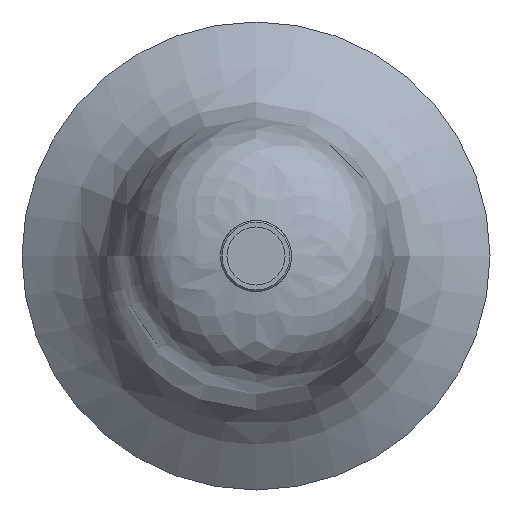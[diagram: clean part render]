
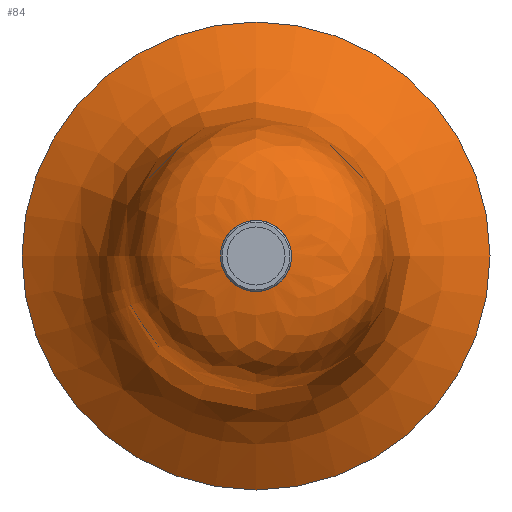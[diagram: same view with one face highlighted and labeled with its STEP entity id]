
A CAD part, front view. The second image highlights one B-rep face of the part: STEP entity #84.
In plain terms, the highlighted free-form (B-spline) face has degree [3, 2] with [6, 9] control points.
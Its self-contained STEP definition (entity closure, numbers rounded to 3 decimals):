
#15=(
BOUNDED_SURFACE()
B_SPLINE_SURFACE(3,2,((#176,#177,#178,#179,#180,#181,#182,#183,#184),(#185,
#186,#187,#188,#189,#190,#191,#192,#193),(#194,#195,#196,#197,#198,#199,
#200,#201,#202),(#203,#204,#205,#206,#207,#208,#209,#210,#211),(#212,#213,
#214,#215,#216,#217,#218,#219,#220),(#221,#222,#223,#224,#225,#226,#227,
#228,#229)),.UNSPECIFIED.,.F.,.T.,.F.)
B_SPLINE_SURFACE_WITH_KNOTS((4,1,1,4),(3,2,2,2,3),(0.,3.282,9.91,
13.27),(0.,1.571,3.142,4.712,
6.283),.UNSPECIFIED.)
GEOMETRIC_REPRESENTATION_ITEM()
RATIONAL_B_SPLINE_SURFACE(((1.,0.707,1.,0.707,1.,
0.707,1.,0.707,1.),(1.,0.707,1.,0.707,
1.,0.707,1.,0.707,1.),(1.,0.707,1.,
0.707,1.,0.707,1.,0.707,1.),(1.,0.707,
1.,0.707,1.,0.707,1.,0.707,1.),(1.,
0.707,1.,0.707,1.,0.707,1.,0.707,
1.),(1.,0.707,1.,0.707,1.,0.707,1.,
0.707,1.)))
REPRESENTATION_ITEM('')
SURFACE()
);
#17=B_SPLINE_CURVE_WITH_KNOTS('',3,(#133,#134,#135,#136,#137,#138,#139,
#140,#141,#142,#143,#144,#145,#146,#147,#148,#149,#150,#151,#152,#153,#154,
#155,#156,#157,#158,#159,#160,#161,#162,#163,#164,#165,#166,#167,#168),
 .UNSPECIFIED.,.T.,.F.,(4,2,2,2,2,2,2,2,2,2,2,2,2,2,2,2,2,4),(-6.932,
-6.689,-6.446,-6.016,-5.586,
-5.157,-4.727,-4.297,-3.867,
-3.438,-3.008,-2.578,-2.149,
-1.719,-1.289,-0.859,-0.43,
0.),.UNSPECIFIED.);
#18=B_SPLINE_CURVE_WITH_KNOTS('',3,(#230,#231,#232,#233,#234,#235),
 .UNSPECIFIED.,.F.,.F.,(4,1,1,4),(0.,3.282,9.91,12.288),
 .UNSPECIFIED.);
#32=FACE_OUTER_BOUND('',#43,.T.);
#43=EDGE_LOOP('',(#72,#73,#74,#75));
#48=CIRCLE('',#97,72.5);
#52=VERTEX_POINT('',#132);
#54=VERTEX_POINT('',#174);
#58=EDGE_CURVE('',#52,#52,#17,.T.);
#60=EDGE_CURVE('',#54,#54,#48,.T.);
#61=EDGE_CURVE('',#54,#52,#18,.T.);
#72=ORIENTED_EDGE('',*,*,#58,.T.);
#73=ORIENTED_EDGE('',*,*,#61,.F.);
#74=ORIENTED_EDGE('',*,*,#60,.F.);
#75=ORIENTED_EDGE('',*,*,#61,.T.);
#84=ADVANCED_FACE('',(#32),#15,.T.);
#97=AXIS2_PLACEMENT_3D('',#175,#120,#121);
#120=DIRECTION('center_axis',(0.,1.,0.));
#121=DIRECTION('ref_axis',(1.,0.,0.));
#132=CARTESIAN_POINT('',(-11.,1.252,0.));
#133=CARTESIAN_POINT('Ctrl Pts',(0.,1.252,
-11.));
#134=CARTESIAN_POINT('Ctrl Pts',(-0.811,1.252,-11.));
#135=CARTESIAN_POINT('Ctrl Pts',(-1.62,1.252,-10.91));
#136=CARTESIAN_POINT('Ctrl Pts',(-3.202,1.252,-10.555));
#137=CARTESIAN_POINT('Ctrl Pts',(-3.971,1.252,-10.29));
#138=CARTESIAN_POINT('Ctrl Pts',(-5.999,1.252,-9.331));
#139=CARTESIAN_POINT('Ctrl Pts',(-7.162,1.252,-8.471));
#140=CARTESIAN_POINT('Ctrl Pts',(-9.092,1.252,-6.355));
#141=CARTESIAN_POINT('Ctrl Pts',(-9.842,1.252,-5.118));
#142=CARTESIAN_POINT('Ctrl Pts',(-10.824,1.252,-2.427));
#143=CARTESIAN_POINT('Ctrl Pts',(-11.048,1.252,-0.998));
#144=CARTESIAN_POINT('Ctrl Pts',(-10.935,1.252,1.864));
#145=CARTESIAN_POINT('Ctrl Pts',(-10.6,1.252,3.271));
#146=CARTESIAN_POINT('Ctrl Pts',(-9.409,1.252,5.876));
#147=CARTESIAN_POINT('Ctrl Pts',(-8.564,1.252,7.05));
#148=CARTESIAN_POINT('Ctrl Pts',(-6.473,1.252,9.008));
#149=CARTESIAN_POINT('Ctrl Pts',(-5.247,1.252,9.774));
#150=CARTESIAN_POINT('Ctrl Pts',(-2.569,1.252,10.791));
#151=CARTESIAN_POINT('Ctrl Pts',(-1.143,1.252,11.034));
#152=CARTESIAN_POINT('Ctrl Pts',(1.721,1.252,10.959));
#153=CARTESIAN_POINT('Ctrl Pts',(3.131,1.252,10.642));
#154=CARTESIAN_POINT('Ctrl Pts',(5.752,1.252,9.485));
#155=CARTESIAN_POINT('Ctrl Pts',(6.937,1.252,8.656));
#156=CARTESIAN_POINT('Ctrl Pts',(8.922,1.252,6.591));
#157=CARTESIAN_POINT('Ctrl Pts',(9.704,1.252,5.374));
#158=CARTESIAN_POINT('Ctrl Pts',(10.757,1.252,2.71));
#159=CARTESIAN_POINT('Ctrl Pts',(11.018,1.252,1.288));
#160=CARTESIAN_POINT('Ctrl Pts',(10.98,1.252,-1.577));
#161=CARTESIAN_POINT('Ctrl Pts',(10.682,1.252,-2.991));
#162=CARTESIAN_POINT('Ctrl Pts',(9.56,1.252,-5.627));
#163=CARTESIAN_POINT('Ctrl Pts',(8.746,1.252,-6.823));
#164=CARTESIAN_POINT('Ctrl Pts',(6.708,1.252,-8.835));
#165=CARTESIAN_POINT('Ctrl Pts',(5.501,1.252,-9.633));
#166=CARTESIAN_POINT('Ctrl Pts',(2.851,1.252,-10.72));
#167=CARTESIAN_POINT('Ctrl Pts',(1.432,1.252,-11.));
#168=CARTESIAN_POINT('Ctrl Pts',(0.,1.252,
-11.));
#174=CARTESIAN_POINT('',(-72.5,95.,0.));
#175=CARTESIAN_POINT('Origin',(0.,95.,0.));
#176=CARTESIAN_POINT('Ctrl Pts',(-72.5,95.,0.));
#177=CARTESIAN_POINT('Ctrl Pts',(-72.5,95.,72.5));
#178=CARTESIAN_POINT('Ctrl Pts',(0.,95.,72.5));
#179=CARTESIAN_POINT('Ctrl Pts',(72.5,95.,72.5));
#180=CARTESIAN_POINT('Ctrl Pts',(72.5,95.,0.));
#181=CARTESIAN_POINT('Ctrl Pts',(72.5,95.,-72.5));
#182=CARTESIAN_POINT('Ctrl Pts',(0.,95.,-72.5));
#183=CARTESIAN_POINT('Ctrl Pts',(-72.5,95.,-72.5));
#184=CARTESIAN_POINT('Ctrl Pts',(-72.5,95.,0.));
#185=CARTESIAN_POINT('Ctrl Pts',(-62.679,88.949,0.));
#186=CARTESIAN_POINT('Ctrl Pts',(-62.679,88.949,62.679));
#187=CARTESIAN_POINT('Ctrl Pts',(0.,88.949,
62.679));
#188=CARTESIAN_POINT('Ctrl Pts',(62.679,88.949,62.679));
#189=CARTESIAN_POINT('Ctrl Pts',(62.679,88.949,0.));
#190=CARTESIAN_POINT('Ctrl Pts',(62.679,88.949,-62.679));
#191=CARTESIAN_POINT('Ctrl Pts',(0.,88.949,
-62.679));
#192=CARTESIAN_POINT('Ctrl Pts',(-62.679,88.949,-62.679));
#193=CARTESIAN_POINT('Ctrl Pts',(-62.679,88.949,0.));
#194=CARTESIAN_POINT('Ctrl Pts',(-33.025,70.678,0.));
#195=CARTESIAN_POINT('Ctrl Pts',(-33.025,70.678,33.025));
#196=CARTESIAN_POINT('Ctrl Pts',(0.,70.678,
33.025));
#197=CARTESIAN_POINT('Ctrl Pts',(33.025,70.678,33.025));
#198=CARTESIAN_POINT('Ctrl Pts',(33.025,70.678,0.));
#199=CARTESIAN_POINT('Ctrl Pts',(33.025,70.678,-33.025));
#200=CARTESIAN_POINT('Ctrl Pts',(0.,70.678,
-33.025));
#201=CARTESIAN_POINT('Ctrl Pts',(-33.025,70.678,-33.025));
#202=CARTESIAN_POINT('Ctrl Pts',(-33.025,70.678,0.));
#203=CARTESIAN_POINT('Ctrl Pts',(-50.499,5.092,0.));
#204=CARTESIAN_POINT('Ctrl Pts',(-50.499,5.092,50.499));
#205=CARTESIAN_POINT('Ctrl Pts',(0.,5.092,
50.499));
#206=CARTESIAN_POINT('Ctrl Pts',(50.499,5.092,50.499));
#207=CARTESIAN_POINT('Ctrl Pts',(50.499,5.092,0.));
#208=CARTESIAN_POINT('Ctrl Pts',(50.499,5.092,-50.499));
#209=CARTESIAN_POINT('Ctrl Pts',(0.,5.092,
-50.499));
#210=CARTESIAN_POINT('Ctrl Pts',(-50.499,5.092,-50.499));
#211=CARTESIAN_POINT('Ctrl Pts',(-50.499,5.092,0.));
#212=CARTESIAN_POINT('Ctrl Pts',(-12.711,1.282,0.));
#213=CARTESIAN_POINT('Ctrl Pts',(-12.711,1.282,12.711));
#214=CARTESIAN_POINT('Ctrl Pts',(0.,1.282,
12.711));
#215=CARTESIAN_POINT('Ctrl Pts',(12.711,1.282,12.711));
#216=CARTESIAN_POINT('Ctrl Pts',(12.711,1.282,0.));
#217=CARTESIAN_POINT('Ctrl Pts',(12.711,1.282,-12.711));
#218=CARTESIAN_POINT('Ctrl Pts',(0.,1.282,
-12.711));
#219=CARTESIAN_POINT('Ctrl Pts',(-12.711,1.282,-12.711));
#220=CARTESIAN_POINT('Ctrl Pts',(-12.711,1.282,0.));
#221=CARTESIAN_POINT('Ctrl Pts',(0.,0.,0.));
#222=CARTESIAN_POINT('Ctrl Pts',(0.,0.,0.));
#223=CARTESIAN_POINT('Ctrl Pts',(0.,0.,0.));
#224=CARTESIAN_POINT('Ctrl Pts',(0.,0.,0.));
#225=CARTESIAN_POINT('Ctrl Pts',(0.,0.,0.));
#226=CARTESIAN_POINT('Ctrl Pts',(0.,0.,0.));
#227=CARTESIAN_POINT('Ctrl Pts',(0.,0.,0.));
#228=CARTESIAN_POINT('Ctrl Pts',(0.,0.,0.));
#229=CARTESIAN_POINT('Ctrl Pts',(0.,0.,0.));
#230=CARTESIAN_POINT('Ctrl Pts',(-72.5,95.,0.));
#231=CARTESIAN_POINT('Ctrl Pts',(-62.679,88.949,0.));
#232=CARTESIAN_POINT('Ctrl Pts',(-33.025,70.678,0.));
#233=CARTESIAN_POINT('Ctrl Pts',(-49.206,9.945,0.));
#234=CARTESIAN_POINT('Ctrl Pts',(-19.648,2.471,0.));
#235=CARTESIAN_POINT('Ctrl Pts',(-11.,1.252,0.));
